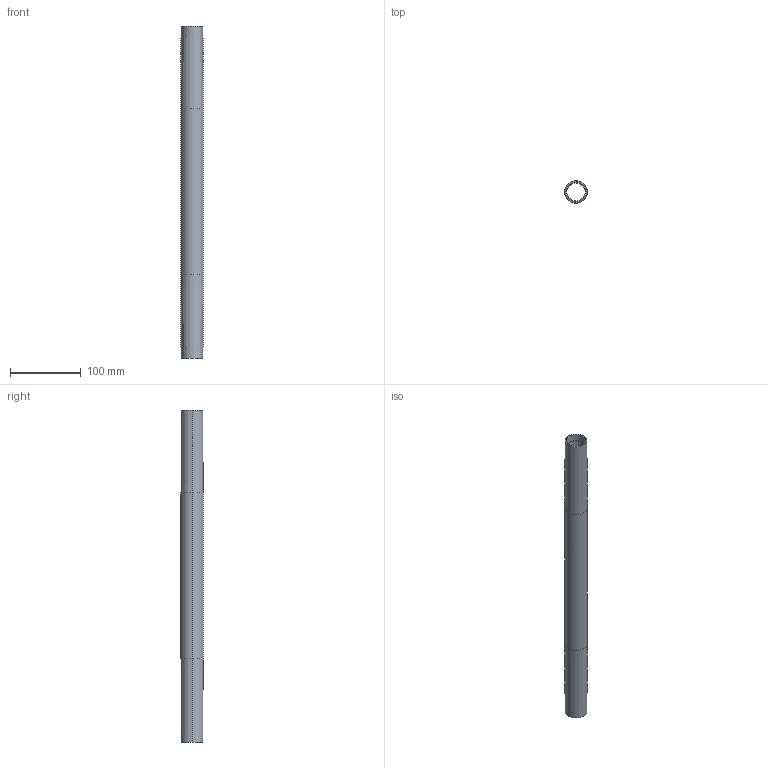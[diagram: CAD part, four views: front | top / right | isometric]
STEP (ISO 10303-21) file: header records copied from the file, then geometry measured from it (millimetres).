
FILE_DESCRIPTION (( 'STEP AP214' ), '1' );
FILE_NAME ('084.801.019.450.STEP', '2021-02-05T15:56:50', ( '' ), ( '' ), 'SwSTEP 2.0', 'SolidWorks 2018', '' );
FILE_SCHEMA (( 'AUTOMOTIVE_DESIGN' ));
Length unit declared in the file: millimetre
Products named in the file (1): 084.801.019.450
Bounding box: 32 x 32 x 470 mm (x, y, z)
Volume: 120909.2 mm3; surface area: 85856.8 mm2
Topology: 1 solids, 1 shells, 18 faces, 38 edges, 24 vertices
Faces by surface type: cylinder 10, cone 4, plane 4
Entity records: 588 total; most frequent: CARTESIAN_POINT 145, DIRECTION 92, ORIENTED_EDGE 76, AXIS2_PLACEMENT_3D 39, EDGE_CURVE 38, EDGE_LOOP 24, VERTEX_POINT 24, CIRCLE 20
